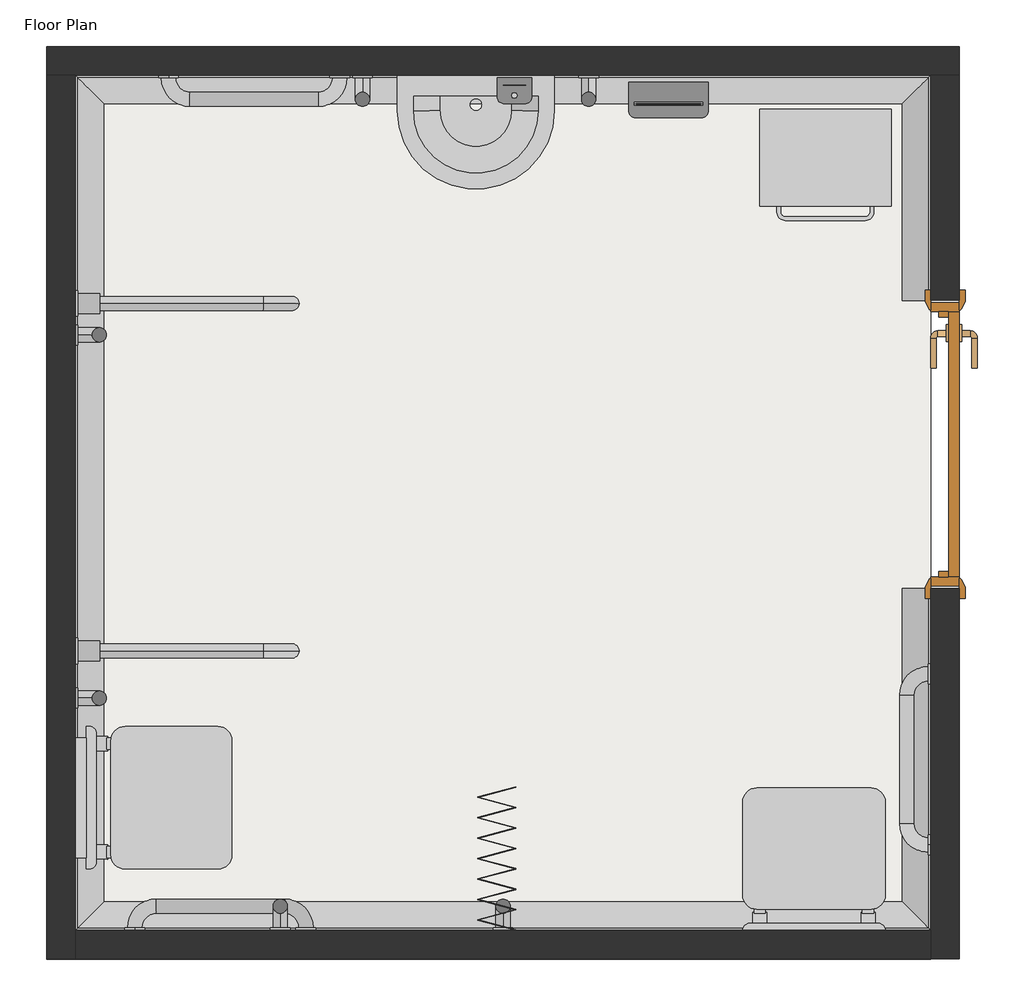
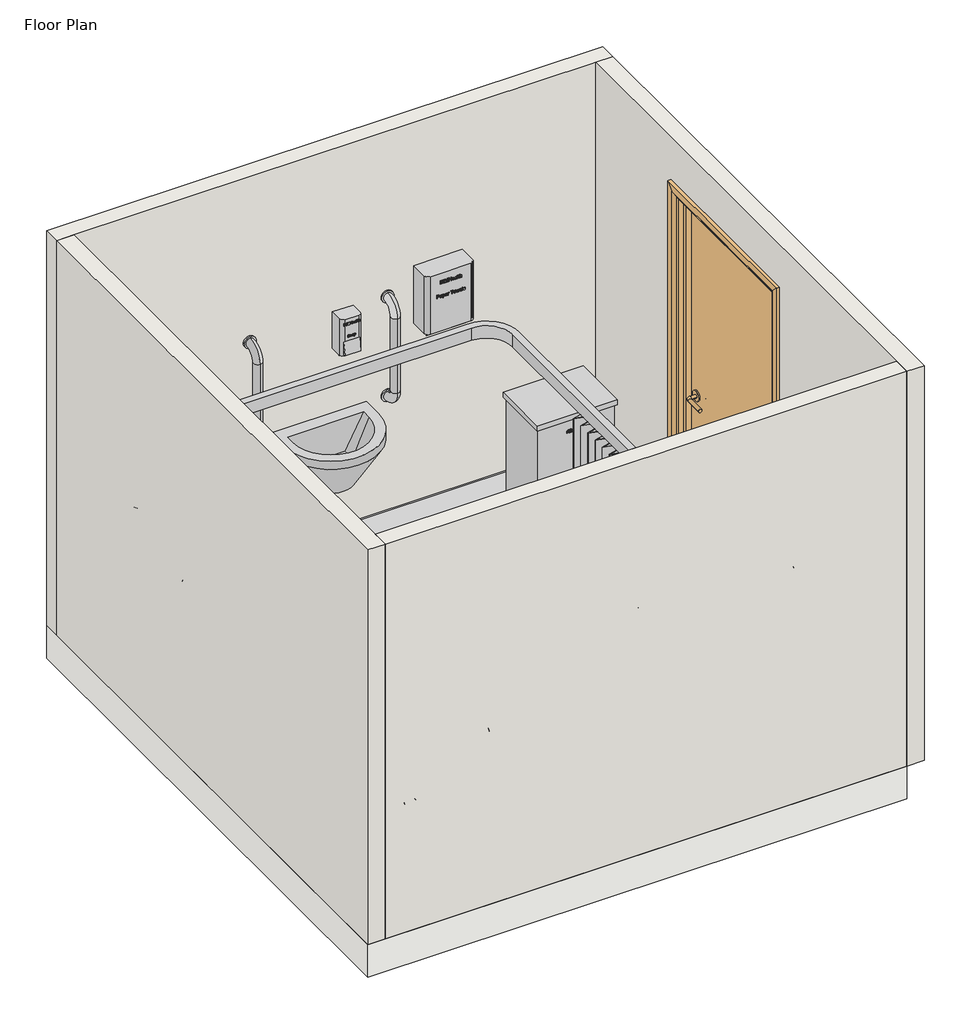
# One storey, incomplete: 17 proxies, 4 furniture elements, 4 walls, 1 door, 1 flow terminal, 1 slab.
"""IFC4 building model written with IfcOpenShell, lengths in millimetres."""

from ifc_helpers import new_model, si_unit, frame, origin, origin_with_axes, place, context, project, spatial, polyline, circle_curve, ellipse_curve, outline, extrude, faceted_brep, transform, mapped, element, save
from ifc_brep_helpers import plane_surface, revolved_surface, advanced_brep
from components import generic_models_b4c89709, type_1_021b8e3e, type_1_3e4eb001, type_1_f4c963d5, type_1_f76a5bbc, type_1_f275d547, type_1_04eb1ea4, door_1010x2110mm_f9eb5fde, flow_terminal_9bf15598, furniture_46abfedd, furniture_af9008cf, furniture_166ce8d1, furniture_26d36cfe

model = new_model("IFC4")

# Units and contexts
model_context = context("Model", 3, world=origin())
ifc_project = project(units=[si_unit("LENGTHUNIT", "METRE", prefix="MILLI")], contexts=[model_context])

# Site, building, storey
site = spatial("IfcSite", under=ifc_project)
building = spatial("IfcBuilding", under=site)
storey = spatial("IfcBuildingStorey", under=building, Name="Floor Plan", Elevation=0.0)

# Proxies
placement = place(None, origin())
element("IfcBuildingElementProxy", 1, Name="Wall Sweeps", at=placement, inside=storey, context=model_context, shape_type="AdvancedBrep", body=[
    advanced_brep(
    [(2105.0, 4625.0, 0.0), (2105.0, 4625.0, 100.0), (2095.0, 4625.0, 100.0), (2005.0, 4625.0, 10.0), (2005.0, 4625.0, 0.0), (2105.0, 5415.0, 0.0), (2005.0, 5315.0, 0.0), (2005.0, 5315.0, 10.0), (2095.0, 5405.0, 100.0), (2105.0, 5415.0, 100.0)],
    [
        (0, 1),
        (1, 2),
        (2, 3, circle_curve(frame((2005.0, 4625.0, 100.0), z_axis=(0.0, 1.0, 0.0), x_axis=(-1.0, 0.0, 0.0)), 90.0)),
        (3, 4),
        (4, 0),
        (5, 6),
        (6, 7),
        (7, 8, ellipse_curve(frame((2005.0, 5315.0, 100.0), z_axis=(0.7071067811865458, -0.7071067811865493, 0.0), x_axis=(0.7071067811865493, 0.7071067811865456, 0.0)), 127.2792206, 90.0)),
        (8, 9),
        (9, 5),
        (4, 6),
        (5, 0),
        (3, 7),
        (2, 8),
        (1, 9),
    ],
    [
        plane_surface(frame((2004.5012438, 4625.0, 0.0), z_axis=(0.0, -1.0, 0.0), x_axis=(0.0, 0.0, 1.0))),
        plane_surface(frame((2105.0, 5415.0, -304.8), z_axis=(-0.7071067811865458, 0.7071067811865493, 0.0), x_axis=(-0.7071067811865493, -0.7071067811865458, 0.0))),
        plane_surface(frame((2005.0, 4625.0, 0.0), z_axis=(0.0, 0.0, -1.0), x_axis=(0.0, 1.0, 0.0))),
        plane_surface(frame((2005.0, 4625.0, 10.0), z_axis=(-1.0, 0.0, 0.0), x_axis=(0.0, 1.0, 0.0))),
        revolved_surface(polyline([(1915.0, 5405.0, 100.0), (1915.0, 4625.0, 100.0)]), (2005.0, 4625.0, 100.0), (0.0, 1.0, 0.0)),
        plane_surface(frame((2105.0, 4625.0, 100.0), z_axis=(0.0, 0.0, 1.0), x_axis=(0.0, 1.0, 0.0))),
        plane_surface(frame((2105.0, 4625.0, 0.0), z_axis=(1.0, 0.0, 0.0), x_axis=(0.0, 1.0, 0.0))),
    ],
    [
        (0, [[1, 2, 3, 4, 5]]),
        (1, [[6, 7, 8, 9, 10]]),
        (2, [[-5, 11, -6, 12]]),
        (3, [[-4, 13, -7, -11]]),
        (4, [[-3, 14, -8, -13]]),
        (5, [[-2, 15, -9, -14]]),
        (6, [[-1, -12, -10, -15]]),
    ],
),
    advanced_brep(
    [(2105.0, 2415.0, 0.0), (2105.0, 2415.0, 100.0), (2095.0, 2425.0, 100.0), (2005.0, 2515.0, 10.0), (2005.0, 2515.0, 0.0), (2105.0, 3615.0, 0.0), (2005.0, 3615.0, 0.0), (2005.0, 3615.0, 10.0), (2095.0, 3615.0, 100.0), (2105.0, 3615.0, 100.0)],
    [
        (0, 1),
        (1, 2),
        (2, 3, ellipse_curve(frame((2005.0, 2515.0, 100.0), z_axis=(0.7071067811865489, 0.7071067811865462, 0.0), x_axis=(-0.7071067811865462, 0.7071067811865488, 0.0)), 127.2792206, 90.0)),
        (3, 4),
        (4, 0),
        (5, 6),
        (6, 7),
        (7, 8, circle_curve(frame((2005.0, 3615.0, 100.0), z_axis=(0.0, -1.0, 0.0), x_axis=(-1.0, 0.0, 0.0)), 90.0)),
        (8, 9),
        (9, 5),
        (4, 6),
        (5, 0),
        (3, 7),
        (2, 8),
        (1, 9),
    ],
    [
        plane_surface(frame((2105.0, 2415.0, -304.8), z_axis=(-0.7071067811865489, -0.7071067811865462, 0.0), x_axis=(-0.7071067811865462, 0.7071067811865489, 0.0))),
        plane_surface(frame((2004.5012438, 3615.0, 0.0), z_axis=(0.0, 1.0, 0.0), x_axis=(0.0, 0.0, 1.0))),
        plane_surface(frame((2005.0, 2515.0, 0.0), z_axis=(0.0, 0.0, -1.0), x_axis=(0.0, 1.0, 0.0))),
        plane_surface(frame((2005.0, 2515.0, 10.0), z_axis=(-1.0, 0.0, 0.0), x_axis=(0.0, 1.0, 0.0))),
        revolved_surface(polyline([(1915.0, 3615.0, 100.0), (1915.0, 2425.0, 100.0)]), (2005.0, 2415.0, 100.0), (0.0, 1.0, 0.0)),
        plane_surface(frame((2105.0, 2415.0, 100.0), z_axis=(0.0, 0.0, 1.0), x_axis=(0.0, 1.0, 0.0))),
        plane_surface(frame((2105.0, 2415.0, 0.0), z_axis=(1.0, 0.0, 0.0), x_axis=(0.0, 1.0, 0.0))),
    ],
    [
        (0, [[1, 2, 3, 4, 5]]),
        (1, [[6, 7, 8, 9, 10]]),
        (2, [[-5, 11, -6, 12]]),
        (3, [[-4, 13, -7, -11]]),
        (4, [[-3, 14, -8, -13]]),
        (5, [[-2, 15, -9, -14]]),
        (6, [[-1, -12, -10, -15]]),
    ],
),
])
element("IfcBuildingElementProxy", 2, Name="Wall Sweeps", at=placement, inside=storey, context=model_context, shape_type="AdvancedBrep", body=[
    advanced_brep(
    [(-895.0, 5415.0, 0.0), (-795.0, 5315.0, 0.0), (-795.0, 5315.0, 10.0), (-885.0, 5405.0, 100.0), (-895.0, 5415.0, 100.0), (2105.0, 5415.0, 0.0), (2105.0, 5415.0, 100.0), (2095.0, 5405.0, 100.0), (2005.0, 5315.0, 10.0), (2005.0, 5315.0, 0.0)],
    [
        (0, 1),
        (1, 2),
        (2, 3, ellipse_curve(frame((-795.0, 5315.0, 100.0), z_axis=(0.7071067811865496, 0.7071067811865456, 0.0), x_axis=(0.7071067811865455, -0.7071067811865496, 0.0)), 127.2792206, 90.0)),
        (3, 4),
        (4, 0),
        (5, 6),
        (6, 7),
        (7, 8, ellipse_curve(frame((2005.0, 5315.0, 100.0), z_axis=(-0.7071067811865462, 0.7071067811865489, 0.0), x_axis=(0.7071067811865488, 0.7071067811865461, 0.0)), 127.2792206, 90.0)),
        (8, 9),
        (9, 5),
        (0, 5),
        (9, 1),
        (8, 2),
        (7, 3),
        (6, 4),
    ],
    [
        plane_surface(frame((-895.0, 5415.0, 304.8), z_axis=(-0.7071067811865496, -0.7071067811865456, 0.0), x_axis=(0.7071067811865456, -0.7071067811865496, 0.0))),
        plane_surface(frame((2105.0, 5415.0, 304.8), z_axis=(0.7071067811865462, -0.7071067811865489, 0.0), x_axis=(-0.7071067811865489, -0.7071067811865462, 0.0))),
        plane_surface(frame((-895.0, 5415.0, 0.0), z_axis=(0.0, 0.0, -1.0), x_axis=(1.0, 0.0, 0.0))),
        plane_surface(frame((-795.0, 5315.0, 0.0), z_axis=(0.0, -1.0, 0.0), x_axis=(1.0, 0.0, 0.0))),
        revolved_surface(polyline([(2095.0, 5225.0, 100.0), (-885.0, 5225.0, 100.0)]), (-895.0, 5315.0, 100.0), (1.0, 0.0, 0.0)),
        plane_surface(frame((-885.0, 5405.0, 100.0), z_axis=(0.0, 0.0, 1.0), x_axis=(1.0, 0.0, 0.0))),
        plane_surface(frame((-895.0, 5415.0, 100.0), z_axis=(0.0, 1.0, 0.0), x_axis=(1.0, 0.0, 0.0))),
    ],
    [
        (0, [[1, 2, 3, 4, 5]]),
        (1, [[6, 7, 8, 9, 10]]),
        (2, [[-1, 11, -10, 12]]),
        (3, [[-2, -12, -9, 13]]),
        (4, [[-3, -13, -8, 14]]),
        (5, [[-4, -14, -7, 15]]),
        (6, [[-5, -15, -6, -11]]),
    ],
),
])
element("IfcBuildingElementProxy", 3, Name="Wall Sweeps", at=placement, inside=storey, context=model_context, shape_type="AdvancedBrep", body=[
    advanced_brep(
    [(-895.0, 5415.0, 0.0), (-895.0, 5415.0, 100.0), (-885.0, 5405.0, 100.0), (-795.0, 5315.0, 10.0), (-795.0, 5315.0, 0.0), (-895.0, 2415.0, 0.0), (-795.0, 2515.0, 0.0), (-795.0, 2515.0, 10.0), (-885.0, 2425.0, 100.0), (-895.0, 2415.0, 100.0)],
    [
        (0, 1),
        (1, 2),
        (2, 3, ellipse_curve(frame((-795.0, 5315.0, 100.0), z_axis=(-0.7071067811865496, -0.7071067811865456, 0.0), x_axis=(0.7071067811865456, -0.7071067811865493, 0.0)), 127.2792206, 90.0)),
        (3, 4),
        (4, 0),
        (5, 6),
        (6, 7),
        (7, 8, ellipse_curve(frame((-795.0, 2515.0, 100.0), z_axis=(-0.707106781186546, 0.7071067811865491, 0.0), x_axis=(-0.7071067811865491, -0.7071067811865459, 0.0)), 127.2792206, 90.0)),
        (8, 9),
        (9, 5),
        (0, 5),
        (9, 1),
        (8, 2),
        (7, 3),
        (6, 4),
    ],
    [
        plane_surface(frame((-895.0, 5415.0, -304.8), z_axis=(0.7071067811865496, 0.7071067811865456, 0.0), x_axis=(0.7071067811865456, -0.7071067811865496, 0.0))),
        plane_surface(frame((-895.0, 2415.0, -304.8), z_axis=(0.707106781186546, -0.7071067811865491, 0.0), x_axis=(0.7071067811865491, 0.707106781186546, 0.0))),
        plane_surface(frame((-895.0, 5415.0, 0.0), z_axis=(-1.0, 0.0, 0.0), x_axis=(0.0, -1.0, 0.0))),
        plane_surface(frame((-895.0, 5415.0, 100.0), z_axis=(0.0, 0.0, 1.0), x_axis=(0.0, -1.0, 0.0))),
        revolved_surface(polyline([(-705.0, 2425.0, 100.0), (-705.0, 5405.0, 100.0)]), (-795.0, 5415.0, 100.0), (0.0, -1.0, 0.0)),
        plane_surface(frame((-795.0, 5315.0, 10.0), z_axis=(1.0, 0.0, 0.0), x_axis=(0.0, -1.0, 0.0))),
        plane_surface(frame((-795.0, 5315.0, 0.0), z_axis=(0.0, 0.0, -1.0), x_axis=(0.0, -1.0, 0.0))),
    ],
    [
        (0, [[1, 2, 3, 4, 5]]),
        (1, [[6, 7, 8, 9, 10]]),
        (2, [[-1, 11, -10, 12]]),
        (3, [[-2, -12, -9, 13]]),
        (4, [[-3, -13, -8, 14]]),
        (5, [[-4, -14, -7, 15]]),
        (6, [[-5, -15, -6, -11]]),
    ],
),
])
element("IfcBuildingElementProxy", 4, Name="Wall Sweeps", at=placement, inside=storey, context=model_context, shape_type="AdvancedBrep", body=[
    advanced_brep(
    [(-895.0, 2415.0, 0.0), (-895.0, 2415.0, 100.0), (-885.0, 2425.0, 100.0), (-795.0, 2515.0, 10.0), (-795.0, 2515.0, 0.0), (2105.0, 2415.0, 0.0), (2005.0, 2515.0, 0.0), (2005.0, 2515.0, 10.0), (2095.0, 2425.0, 100.0), (2105.0, 2415.0, 100.0)],
    [
        (0, 1),
        (1, 2),
        (2, 3, ellipse_curve(frame((-795.0, 2515.0, 100.0), z_axis=(0.707106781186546, -0.7071067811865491, 0.0), x_axis=(0.707106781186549, 0.707106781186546, 0.0)), 127.2792206, 90.0)),
        (3, 4),
        (4, 0),
        (5, 6),
        (6, 7),
        (7, 8, ellipse_curve(frame((2005.0, 2515.0, 100.0), z_axis=(-0.7071067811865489, -0.7071067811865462, 0.0), x_axis=(0.7071067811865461, -0.7071067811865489, 0.0)), 127.2792206, 90.0)),
        (8, 9),
        (9, 5),
        (0, 5),
        (9, 1),
        (8, 2),
        (7, 3),
        (6, 4),
    ],
    [
        plane_surface(frame((-895.0, 2415.0, -304.8), z_axis=(-0.707106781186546, 0.7071067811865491, 0.0), x_axis=(0.7071067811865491, 0.707106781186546, 0.0))),
        plane_surface(frame((2105.0, 2415.0, -304.8), z_axis=(0.7071067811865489, 0.7071067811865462, 0.0), x_axis=(-0.7071067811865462, 0.7071067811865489, 0.0))),
        plane_surface(frame((-895.0, 2415.0, 0.0), z_axis=(0.0, -1.0, 0.0), x_axis=(1.0, 0.0, 0.0))),
        plane_surface(frame((-895.0, 2415.0, 100.0), z_axis=(0.0, 0.0, 1.0), x_axis=(1.0, 0.0, 0.0))),
        revolved_surface(polyline([(2095.0, 2605.0, 100.0), (-885.0, 2605.0, 100.0)]), (-895.0, 2515.0, 100.0), (1.0, 0.0, 0.0)),
        plane_surface(frame((-795.0, 2515.0, 10.0), z_axis=(0.0, 1.0, 0.0), x_axis=(1.0, 0.0, 0.0))),
        plane_surface(frame((-795.0, 2515.0, 0.0), z_axis=(0.0, 0.0, -1.0), x_axis=(1.0, 0.0, 0.0))),
    ],
    [
        (0, [[1, 2, 3, 4, 5]]),
        (1, [[6, 7, 8, 9, 10]]),
        (2, [[-1, 11, -10, 12]]),
        (3, [[-2, -12, -9, 13]]),
        (4, [[-3, -13, -8, 14]]),
        (5, [[-4, -14, -7, 15]]),
        (6, [[-5, -15, -6, -11]]),
    ],
),
])
generic_models_shape = generic_models_b4c89709(model_context)
element("IfcBuildingElementProxy", 5, Name="BIMHealth-Seat_Shower-LOD2A-v1 : BIMHealth-Seat_Shower-LOD2A-v1", ObjectType="BIMHealth-Seat_Shower-LOD2A-v1 : BIMHealth-Seat_Shower-LOD2A-v1", at=placement, inside=storey, context=model_context, shape_type="MappedRepresentation", body=[
    mapped(generic_models_shape, transform((-895.0, 3130.5775882, 0.0), x_axis=(0.0, -1.0000000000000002, 0.0), y_axis=(1.0000000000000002, 0.0, 0.0), z_axis=(0.0, 0.0, 1.0))),
])
element("IfcBuildingElementProxy", 6, Name="BIMHealth-Seat_Shower-LOD2A-v1 : BIMHealth-Seat_Shower-LOD2A-v1", ObjectType="BIMHealth-Seat_Shower-LOD2A-v1 : BIMHealth-Seat_Shower-LOD2A-v1", at=placement, inside=storey, context=model_context, shape_type="MappedRepresentation", body=[
    mapped(generic_models_shape, transform((1445.0, 2365.0, 0.0), x_axis=(1.0000000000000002, 0.0, 0.0), y_axis=(0.0, 1.0000000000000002, 0.0), z_axis=(0.0, 0.0, 1.0))),
])
type_1_shape = type_1_021b8e3e(model_context)
element("IfcBuildingElementProxy", 7, Name="BIMHealth-Grab_Rail_Horizontal-LOD2A-v1 : Type 1", ObjectType="BIMHealth-Grab_Rail_Horizontal-LOD2A-v1 : Type 1", at=placement, inside=storey, context=model_context, shape_type="MappedRepresentation", body=[
    mapped(type_1_shape, transform((-510.8046011, 2365.0, 0.0), x_axis=(1.0, 0.0, 0.0), y_axis=(0.0, 1.0, 0.0), z_axis=(0.0, 0.0, 1.0))),
])
element("IfcBuildingElementProxy", 8, Name="BIMHealth-Grab_Rail_Horizontal-LOD2A-v1 : Type 1", ObjectType="BIMHealth-Grab_Rail_Horizontal-LOD2A-v1 : Type 1", at=placement, inside=storey, context=model_context, shape_type="MappedRepresentation", body=[
    mapped(type_1_shape, transform((2155.0, 2890.0, 0.0), x_axis=(0.0, 1.0, 0.0), y_axis=(-1.0, 0.0, 0.0), z_axis=(0.0, 0.0, 1.0))),
])
type_1_2_shape = type_1_3e4eb001(model_context)
element("IfcBuildingElementProxy", 9, Name="BIMHealth-Grab_Rail_Vertical-LOD2A-v1 : Type 1", ObjectType="BIMHealth-Grab_Rail_Vertical-LOD2A-v1 : Type 1", at=placement, inside=storey, context=model_context, shape_type="MappedRepresentation", body=[
    mapped(type_1_2_shape, transform((-945.0, 3355.0, 0.0), x_axis=(0.0, -1.0, 0.0), y_axis=(1.0, 0.0, 0.0), z_axis=(0.0, 0.0, 1.0))),
])
element("IfcBuildingElementProxy", 10, Name="BIMHealth-Grab_Rail_Vertical-LOD2A-v1 : Type 1", ObjectType="BIMHealth-Grab_Rail_Vertical-LOD2A-v1 : Type 1", at=placement, inside=storey, context=model_context, shape_type="MappedRepresentation", body=[
    mapped(type_1_2_shape, transform((237.5277297, 5465.0, 0.0), x_axis=(-1.0, 0.0, 0.0), y_axis=(0.0, -1.0, 0.0), z_axis=(0.0, 0.0, 1.0))),
])
element("IfcBuildingElementProxy", 11, Name="BIMHealth-Grab_Rail_Vertical-LOD2A-v1 : Type 1", ObjectType="BIMHealth-Grab_Rail_Vertical-LOD2A-v1 : Type 1", at=placement, inside=storey, context=model_context, shape_type="MappedRepresentation", body=[
    mapped(type_1_2_shape, transform((-945.0, 4628.9300562, 0.0), x_axis=(0.0, -1.0, 0.0), y_axis=(1.0, 0.0, 0.0), z_axis=(0.0, 0.0, 1.0))),
])
type_1_3_shape = type_1_f4c963d5(model_context)
element("IfcBuildingElementProxy", 12, Name="BIMHealth-Grab_Rail_Vertical-LOD2A-v1 : Type 1", ObjectType="BIMHealth-Grab_Rail_Vertical-LOD2A-v1 : Type 1", at=placement, inside=storey, context=model_context, shape_type="MappedRepresentation", body=[
    mapped(type_1_3_shape, transform((780.0, 5465.0, 0.0), x_axis=(1.0, 0.0, 0.0), y_axis=(0.0, 1.0, 0.0), z_axis=(0.0, 0.0, 1.0))),
])
element("IfcBuildingElementProxy", 13, Name="BIMHealth-Grab_Rail_Vertical-LOD2A-v1 : Type 1", ObjectType="BIMHealth-Grab_Rail_Vertical-LOD2A-v1 : Type 1", at=placement, inside=storey, context=model_context, shape_type="MappedRepresentation", body=[
    mapped(type_1_3_shape, transform((730.0, 2365.0, 0.0), x_axis=(-1.0, 0.0, 0.0), y_axis=(0.0, -1.0, 0.0), z_axis=(0.0, 0.0, 1.0))),
])
element("IfcBuildingElementProxy", 14, Name="BIMHealth-Grab_Rail_Vertical-LOD2A-v1 : Type 1", ObjectType="BIMHealth-Grab_Rail_Vertical-LOD2A-v1 : Type 1", at=placement, inside=storey, context=model_context, shape_type="MappedRepresentation", body=[
    mapped(type_1_3_shape, transform((-50.8046011, 2365.0, 100.0), x_axis=(-1.0, 0.0, 0.0), y_axis=(0.0, -1.0, 0.0), z_axis=(0.0, 0.0, 1.0))),
])
type_1_4_shape = type_1_f76a5bbc(model_context)
element("IfcBuildingElementProxy", 15, Name="BIMHealth-Grab_Rail_Horizontal-LOD2A-v1 : Type 1", ObjectType="BIMHealth-Grab_Rail_Horizontal-LOD2A-v1 : Type 1", at=placement, inside=storey, context=model_context, shape_type="MappedRepresentation", body=[
    mapped(type_1_4_shape, transform((-392.4722703, 5465.0, 0.0), x_axis=(1.0, 0.0, 0.0), y_axis=(0.0, 1.0, 0.0), z_axis=(0.0, 0.0, 1.0))),
])
type_1_5_shape = type_1_f275d547(model_context)
element("IfcBuildingElementProxy", 16, Name="BIMHealth-Grab_Rail_Drop_Down-LOD2A-v1 : Type 1", ObjectType="BIMHealth-Grab_Rail_Drop_Down-LOD2A-v1 : Type 1", at=placement, inside=storey, context=model_context, shape_type="MappedRepresentation", body=[
    mapped(type_1_5_shape, transform((-945.0, 3270.5775882, 0.0), x_axis=(0.0, 1.0, 0.0), y_axis=(-1.0, 0.0, 0.0), z_axis=(0.0, 0.0, 1.0))),
])
type_1_6_shape = type_1_04eb1ea4(model_context)
element("IfcBuildingElementProxy", 17, Name="BIMHealth-Grab_Rail_Drop_Down-LOD2A-v1 : Type 1", ObjectType="BIMHealth-Grab_Rail_Drop_Down-LOD2A-v1 : Type 1", at=placement, inside=storey, context=model_context, shape_type="MappedRepresentation", body=[
    mapped(type_1_6_shape, transform((-945.0, 4738.9300562, 0.0), x_axis=(0.0, -1.0, 0.0), y_axis=(1.0, 0.0, 0.0), z_axis=(0.0, 0.0, 1.0))),
])

# Door
door_1010x2110mm_shape = door_1010x2110mm_f9eb5fde(model_context)
element("IfcDoor", 18, ObjectType="BIMHealth-Single_Door-LOD2A-v1 : 1010x2110mm", at=placement, inside=storey, context=model_context, shape_type="MappedRepresentation", body=[
    mapped(door_1010x2110mm_shape, transform((2155.0, 4120.0, 0.0), x_axis=(0.0, -1.0, 0.0), y_axis=(1.0, 0.0, 0.0), z_axis=(0.0, 0.0, 1.0))),
])

# Flow terminal
flow_terminal_shape = flow_terminal_9bf15598(model_context)
element("IfcFlowTerminal", 19, ObjectType="BIMHealth-Wash_basin_Doc_M-LOD2A-v1 : BIMHealth-Wash_basin_Doc_M-LOD2A-v1", at=placement, inside=storey, context=model_context, shape_type="MappedRepresentation", body=[
    mapped(flow_terminal_shape, transform((785.0, 5415.0, 500.0), x_axis=(-1.0000000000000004, 0.0, 0.0), y_axis=(0.0, -1.0000000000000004, 0.0), z_axis=(0.0, 0.0, 1.0))),
])

# Furniture
furniture_shape = furniture_46abfedd(model_context)
element("IfcFurniture", 20, ObjectType="BIMHealth-Curtain_Doc_M-LOD2A-v1 : BIMHealth-Curtain_Doc_M-LOD2A-v1", at=placement, inside=storey, context=model_context, shape_type="MappedRepresentation", body=[
    mapped(furniture_shape, transform((605.0, 2415.0, 0.0), x_axis=(0.0, 1.0000000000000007, 0.0), y_axis=(-1.0000000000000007, 0.0, 0.0), z_axis=(0.0, 0.0, 1.0))),
])
furniture_2_shape = furniture_af9008cf(model_context)
element("IfcFurniture", 21, ObjectType="BIMHealth-Bin_Clinical_Foot_Operated-LOD2A-v1 : BIMHealth-Bin_Clinical_Foot_Operated-LOD2A-v1", at=placement, inside=storey, context=model_context, shape_type="MappedRepresentation", body=[
    mapped(furniture_2_shape, transform((1955.0, 5285.0, 0.0), x_axis=(-1.0000000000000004, 0.0, 0.0), y_axis=(0.0, -1.0000000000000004, 0.0), z_axis=(0.0, 0.0, 1.0))),
])
furniture_3_shape = furniture_166ce8d1(model_context)
element("IfcFurniture", 22, ObjectType="BIMHealth-Paper_Towel_Dispenser-LOD2A-v1 : BIMHealth-Paper_Towel_Dispenser-LOD2A-v1", at=placement, inside=storey, context=model_context, shape_type="MappedRepresentation", body=[
    mapped(furniture_3_shape, transform((1045.0, 5390.0, 0.0), x_axis=(1.0, 0.0, 0.0), y_axis=(0.0, 1.0, 0.0), z_axis=(0.0, 0.0, 1.0))),
])
furniture_4_shape = furniture_26d36cfe(model_context)
element("IfcFurniture", 23, ObjectType="BIMHealth-Soap_Dispenser-LOD2A-v1 : BIMHealth-Soap_Dispenser-LOD2A-v1", at=placement, inside=storey, context=model_context, shape_type="MappedRepresentation", body=[
    mapped(furniture_4_shape, transform((585.0, 5405.0, 0.0), x_axis=(1.0, 0.0, 0.0), y_axis=(0.0, 1.0, 0.0), z_axis=(0.0, 0.0, 1.0))),
])

# Slab
element("IfcSlab", 24, ObjectType="BIMHealth - Generic Floor", at=placement, inside=storey, context=model_context, shape_type="SweptSolid", body=[
    extrude(outline(polyline([(2105.0, 5515.0), (2105.0, 2315.0), (-995.0, 2315.0), (-995.0, 5515.0), (2105.0, 5515.0)])), frame((0.0, 0.0, -200.0), z_axis=(0.0, 0.0, 1.0), x_axis=(1.0, 0.0, 0.0)), (0.0, 0.0, 1.0), 200.0),
])

# Walls
element("IfcWall", 25, ObjectType="BIMHealth - Generic Wall", at=placement, inside=storey, context=model_context, shape_type="Brep", body=[
    faceted_brep([(2205.0, 5415.0, 2400.0), (2205.0, 2315.0, 2400.0), (2205.0, 2315.0, 0.0), (2205.0, 3615.0, 0.0), (2205.0, 3615.0, 2110.0), (2205.0, 4625.0, 2110.0), (2205.0, 4625.0, 0.0), (2205.0, 5415.0, 0.0), (2105.0, 2315.0, 2400.0), (2105.0, 2415.0, 2400.0), (2105.0, 5415.0, 2400.0), (2105.0, 5415.0, 0.0), (2105.0, 4625.0, 0.0), (2105.0, 4625.0, 100.0), (2105.0, 4625.0, 2110.0), (2105.0, 3615.0, 2110.0), (2105.0, 3615.0, 100.0), (2105.0, 3615.0, 0.0), (2105.0, 2415.0, 0.0), (2105.0, 2315.0, 0.0)], [[[0, 1, 2, 3, 4, 5, 6, 7]], [[8, 9, 10, 11, 12, 13, 14, 15, 16, 17, 18, 19]], [[2, 19, 18, 17, 3]], [[11, 7, 6, 12]], [[1, 0, 10, 9, 8]], [[15, 4, 3, 17, 16]], [[4, 15, 14, 5]], [[5, 14, 13, 12, 6]], [[2, 1, 8, 19]], [[0, 7, 11, 10]]]),
])
element("IfcWall", 26, ObjectType="BIMHealth - Generic Wall", at=placement, inside=storey, context=model_context, shape_type="Brep", body=[
    faceted_brep([(-995.0, 5415.0, 0.0), (-895.0, 5415.0, 0.0), (2105.0, 5415.0, 0.0), (2205.0, 5415.0, 0.0), (2205.0, 5415.0, 2400.0), (2105.0, 5415.0, 2400.0), (-895.0, 5415.0, 2400.0), (-995.0, 5415.0, 2400.0), (-995.0, 5515.0, 0.0), (-995.0, 5515.0, 2400.0), (2205.0, 5515.0, 2400.0), (2205.0, 5515.0, 0.0)], [[[0, 1, 2, 3, 4, 5, 6, 7]], [[8, 9, 10, 11]], [[3, 2, 1, 0, 8, 11]], [[7, 6, 5, 4, 10, 9]], [[0, 7, 9, 8]], [[4, 3, 11, 10]]]),
])
element("IfcWall", 27, ObjectType="BIMHealth - Generic Wall", at=placement, inside=storey, context=model_context, shape_type="Brep", body=[
    faceted_brep([(-995.0, 5415.0, 0.0), (-995.0, 2315.0, 0.0), (-995.0, 2315.0, 2400.0), (-995.0, 5415.0, 2400.0), (-895.0, 5415.0, 0.0), (-895.0, 5415.0, 2400.0), (-895.0, 2415.0, 2400.0), (-895.0, 2315.0, 2400.0), (-895.0, 2315.0, 0.0), (-895.0, 2415.0, 0.0)], [[[0, 1, 2, 3]], [[4, 5, 6, 7, 8, 9]], [[1, 0, 4, 9, 8]], [[3, 2, 7, 6, 5]], [[0, 3, 5, 4]], [[2, 1, 8, 7]]]),
])
element("IfcWall", 28, ObjectType="BIMHealth - Generic Wall", at=placement, inside=storey, context=model_context, shape_type="SweptSolid", body=[
    extrude(outline(polyline([(2105.0, 2315.0), (-895.0, 2315.0), (-895.0, 2415.0), (2105.0, 2415.0), (2105.0, 2315.0)])), origin_with_axes(), (0.0, 0.0, 1.0), 2400.0),
])

save(model, "model.ifc")
